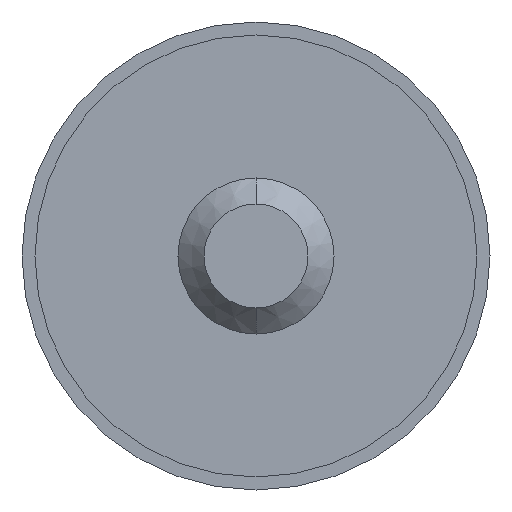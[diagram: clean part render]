
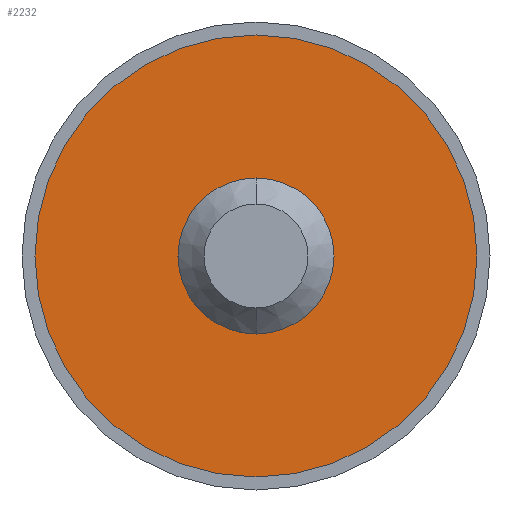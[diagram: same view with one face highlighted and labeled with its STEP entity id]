
A CAD part, front view. The second image highlights one B-rep face of the part: STEP entity #2232.
In plain terms, the highlighted planar face has unit normal (0, -1, 0).
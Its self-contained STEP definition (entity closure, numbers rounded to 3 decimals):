
#124 = AXIS2_PLACEMENT_3D ( 'NONE', #3427, #679, #667 ) ;
#278 = CIRCLE ( 'NONE', #124, 3. ) ;
#385 = EDGE_CURVE ( 'NONE', #2211, #2389, #2388, .T. ) ;
#429 = CARTESIAN_POINT ( 'NONE',  ( 0., -0.5, 0. ) ) ;
#456 = EDGE_LOOP ( 'NONE', ( #3914, #604 ) ) ;
#492 = CARTESIAN_POINT ( 'NONE',  ( 0., -0.5, 0. ) ) ;
#525 = DIRECTION ( 'NONE',  ( 0., 1., 0. ) ) ;
#604 = ORIENTED_EDGE ( 'NONE', *, *, #2608, .F. ) ;
#667 = DIRECTION ( 'NONE',  ( 0., 0., -1. ) ) ;
#679 = DIRECTION ( 'NONE',  ( 0., -1., 0. ) ) ;
#727 = DIRECTION ( 'NONE',  ( 0., 0., -1. ) ) ;
#941 = CIRCLE ( 'NONE', #3893, 8.5 ) ;
#1088 = AXIS2_PLACEMENT_3D ( 'NONE', #429, #3763, #727 ) ;
#1125 = PLANE ( 'NONE',  #2309 ) ;
#1134 = DIRECTION ( 'NONE',  ( 0., 0., 1. ) ) ;
#1135 = AXIS2_PLACEMENT_3D ( 'NONE', #2475, #2789, #3084 ) ;
#1422 = ORIENTED_EDGE ( 'NONE', *, *, #3092, .F. ) ;
#1527 = CARTESIAN_POINT ( 'NONE',  ( 0., -0.5, -8.5 ) ) ;
#1563 = VERTEX_POINT ( 'NONE', #3073 ) ;
#1963 = ORIENTED_EDGE ( 'NONE', *, *, #2612, .F. ) ;
#2211 = VERTEX_POINT ( 'NONE', #2318 ) ;
#2232 = ADVANCED_FACE ( 'NONE', ( #2566, #3307 ), #1125, .F. ) ;
#2309 = AXIS2_PLACEMENT_3D ( 'NONE', #492, #3827, #3216 ) ;
#2318 = CARTESIAN_POINT ( 'NONE',  ( 0., -0.5, 3. ) ) ;
#2320 = CIRCLE ( 'NONE', #1135, 8.5 ) ;
#2339 = CARTESIAN_POINT ( 'NONE',  ( 0., -0.5, 0. ) ) ;
#2378 = VERTEX_POINT ( 'NONE', #1527 ) ;
#2388 = CIRCLE ( 'NONE', #1088, 3. ) ;
#2389 = VERTEX_POINT ( 'NONE', #3345 ) ;
#2475 = CARTESIAN_POINT ( 'NONE',  ( 0., -0.5, 0. ) ) ;
#2566 = FACE_BOUND ( 'NONE', #456, .T. ) ;
#2608 = EDGE_CURVE ( 'NONE', #2389, #2211, #278, .T. ) ;
#2612 = EDGE_CURVE ( 'NONE', #1563, #2378, #2320, .T. ) ;
#2789 = DIRECTION ( 'NONE',  ( 0., 1., 0. ) ) ;
#3073 = CARTESIAN_POINT ( 'NONE',  ( 0., -0.5, 8.5 ) ) ;
#3084 = DIRECTION ( 'NONE',  ( 0., 0., 1. ) ) ;
#3092 = EDGE_CURVE ( 'NONE', #2378, #1563, #941, .T. ) ;
#3216 = DIRECTION ( 'NONE',  ( 0., 0., 1. ) ) ;
#3307 = FACE_OUTER_BOUND ( 'NONE', #3480, .T. ) ;
#3345 = CARTESIAN_POINT ( 'NONE',  ( 0., -0.5, -3. ) ) ;
#3427 = CARTESIAN_POINT ( 'NONE',  ( 0., -0.5, 0. ) ) ;
#3480 = EDGE_LOOP ( 'NONE', ( #1963, #1422 ) ) ;
#3763 = DIRECTION ( 'NONE',  ( 0., -1., 0. ) ) ;
#3827 = DIRECTION ( 'NONE',  ( 0., 1., 0. ) ) ;
#3893 = AXIS2_PLACEMENT_3D ( 'NONE', #2339, #525, #1134 ) ;
#3914 = ORIENTED_EDGE ( 'NONE', *, *, #385, .F. ) ;
